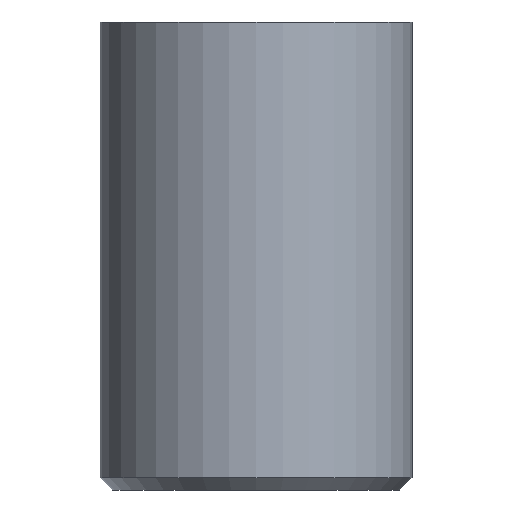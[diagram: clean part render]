
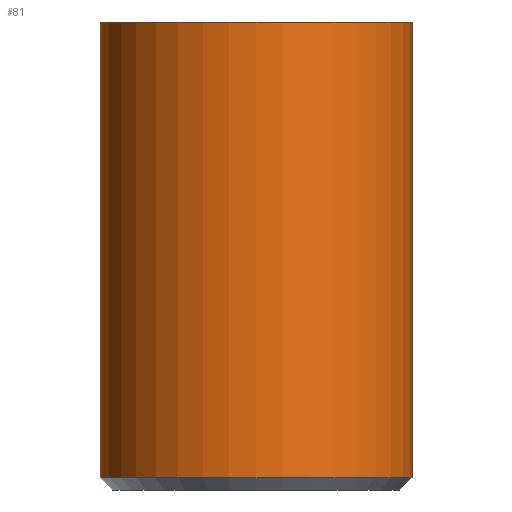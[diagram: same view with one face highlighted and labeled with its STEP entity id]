
A CAD part, front view. The second image highlights one B-rep face of the part: STEP entity #81.
In plain terms, the highlighted cylindrical face has radius 25 mm (diameter 50 mm), a full revolution.
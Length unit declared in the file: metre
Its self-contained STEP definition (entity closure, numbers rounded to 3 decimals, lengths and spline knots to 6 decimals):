
#81 = ADVANCED_FACE( '', ( #180, #181 ), #182, .T. );
#180 = FACE_OUTER_BOUND( '', #275, .T. );
#181 = FACE_OUTER_BOUND( '', #276, .T. );
#182 = CYLINDRICAL_SURFACE( '', #277, 0.025 );
#275 = EDGE_LOOP( '', ( #400 ) );
#276 = EDGE_LOOP( '', ( #401 ) );
#277 = AXIS2_PLACEMENT_3D( '', #402, #403, #404 );
#400 = ORIENTED_EDGE( '', *, *, #443, .T. );
#401 = ORIENTED_EDGE( '', *, *, #437, .F. );
#402 = CARTESIAN_POINT( '', ( 0., 0., -0.075 ) );
#403 = DIRECTION( '', ( 0., 0., -1. ) );
#404 = DIRECTION( '', ( 1., 0., 0. ) );
#437 = EDGE_CURVE( '', #492, #492, #493, .T. );
#443 = EDGE_CURVE( '', #502, #502, #503, .T. );
#492 = VERTEX_POINT( '', #555 );
#493 = CIRCLE( '', #556, 0.025 );
#502 = VERTEX_POINT( '', #565 );
#503 = CIRCLE( '', #566, 0.025 );
#555 = CARTESIAN_POINT( '', ( 0.025, 0., 0. ) );
#556 = AXIS2_PLACEMENT_3D( '', #622, #623, #624 );
#565 = CARTESIAN_POINT( '', ( 0.025, 0., -0.073 ) );
#566 = AXIS2_PLACEMENT_3D( '', #634, #635, #636 );
#622 = CARTESIAN_POINT( '', ( 0., 0., 0. ) );
#623 = DIRECTION( '', ( 0., 0., 1. ) );
#624 = DIRECTION( '', ( 1., 0., 0. ) );
#634 = CARTESIAN_POINT( '', ( 0., 0., -0.073 ) );
#635 = DIRECTION( '', ( 0., 0., 1. ) );
#636 = DIRECTION( '', ( 1., 0., 0. ) );
